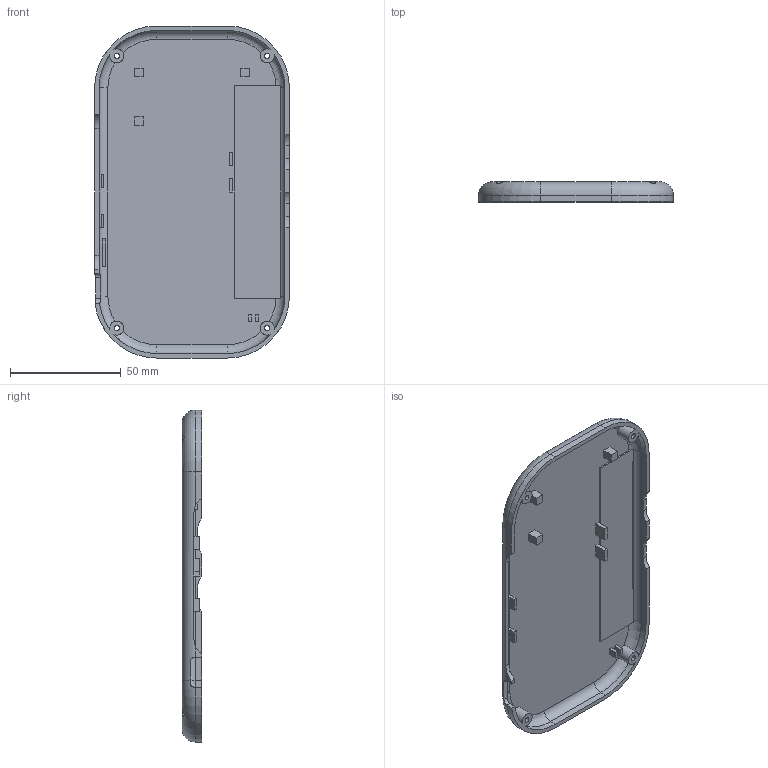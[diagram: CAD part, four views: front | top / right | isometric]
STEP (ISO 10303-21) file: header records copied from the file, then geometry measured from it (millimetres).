
FILE_DESCRIPTION(('Open CASCADE Model'),'2;1');
FILE_NAME('rear_service_cover_PA12','2026-09-04T19:55:13',('Author'),( 'Open CASCADE'),'Open CASCADE STEP processor 7.8','build123d', 'Unknown');
FILE_SCHEMA(('AUTOMOTIVE_DESIGN { 1 0 10303 214 1 1 1 1 }'));
Length unit declared in the file: millimetre
Products named in the file (1): rear_service_cover_PA12
Bounding box: 88 x 9 x 150 mm (x, y, z)
Volume: 30840.8 mm3; surface area: 30615.4 mm2
Topology: 1 solids, 1 shells, 136 faces, 358 edges, 234 vertices
Faces by surface type: plane 84, cylinder 40, torus 12
Full cylindrical faces by diameter (mm): 2.4 x4, 4.2 x4
Entity records: 11302 total; most frequent: CARTESIAN_POINT 4554, DIRECTION 1126, ORIENTED_EDGE 716, PCURVE 716, DEFINITIONAL_REPRESENTATION 716, LINE 606, VECTOR 606, EDGE_CURVE 358
